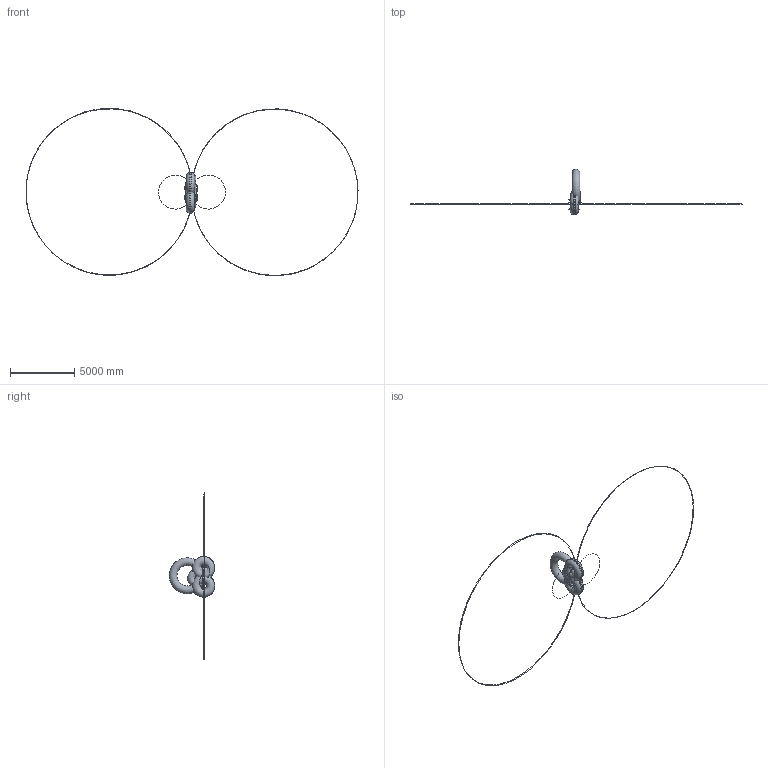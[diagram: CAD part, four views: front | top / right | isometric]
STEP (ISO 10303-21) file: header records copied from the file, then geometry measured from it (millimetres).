
FILE_DESCRIPTION((''),'2;1');
FILE_NAME('SK3_SHRINKWRAP_ASM_ASM','2007-10-26T',('wongch01'),(''),'PRO/ENGINEER BY PARAMETRIC TECHNOLOGY CORPORATION, 2007160','PRO/ENGINEER BY PARAMETRIC TECHNOLOGY CORPORATION, 2007160','');
FILE_SCHEMA(('CONFIG_CONTROL_DESIGN'));
Products named in the file (2): _SK3_SHRINKWRAP_ASM; SK3_SHRINKWRAP_ASM_ASM
Assembly tree (1 placements, depth 2):
  SK3_SHRINKWRAP_ASM_ASM
    _SK3_SHRINKWRAP_ASM
Bounding box: 25778.95 x 3537.18 x 12992.85 mm (x, y, z)
Surface area: 108202801.4 mm2 (no closed solid volume)
Topology: 0 solids, 0 shells, 11831 faces, 70492 edges, 70161 vertices
Faces by surface type: bspline 11121, torus 589, sphere 121
Entity records: 1109332 total; most frequent: CARTESIAN_POINT 508265, DIRECTION 85431, TRIMMED_CURVE 78098, VECTOR 72191, LINE 72191, DEFINITIONAL_REPRESENTATION 69781, PCURVE 69781, COMPOSITE_CURVE_SEGMENT 69781
